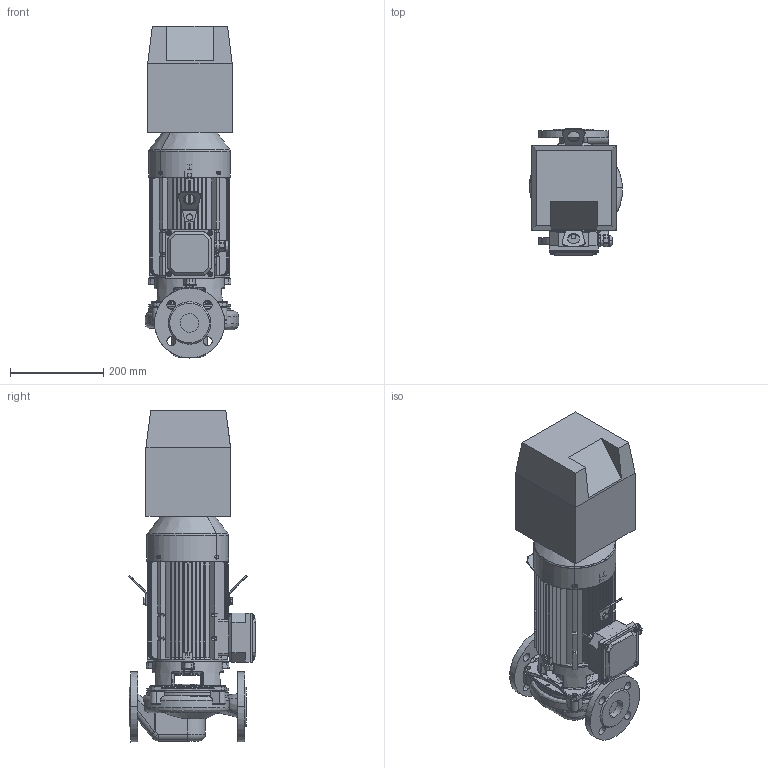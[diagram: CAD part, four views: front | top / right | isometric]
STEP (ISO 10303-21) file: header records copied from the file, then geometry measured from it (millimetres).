
FILE_DESCRIPTION(('STEP AP214'),'1');
FILE_NAME('export.stp','2018-08-09T05:24:07',(' '),(' '),'Spatial InterOp 3D',' ',' ');
FILE_SCHEMA(('AUTOMOTIVE_DESIGN { 1 0 10303 214 1 1 1 1 }'));
Length unit declared in the file: millimetre
Products named in the file (24): W_L40A2NC150KP; V_TLAEAP3233L40A; V_PPL40A; 160035; 160008; V_MKP90-1_N13; 160141; 160137; 160138; 160139; 160140; Koura_Ale_M5; Plug_Blind_M20; Sealing_Plug_M20; DIN_7985-M5X8; DIN_7985-M5X12; 480037; 480036___; 480039; 480038___; 160135; 160134; DIN_EN_24017_-_M8_16-Stainless_S; NC_Size1
Assembly tree (28 placements, depth 4):
  W_L40A2NC150KP
    V_TLAEAP3233L40A
    V_PPL40A
    V_MKP90-1_N13
      160035
        160008
      160141
        160137
        160138
        160139
        160140
        Koura_Ale_M5
        Plug_Blind_M20
        Sealing_Plug_M20
        DIN_7985-M5X8
        DIN_7985-M5X12  x4
      480037
        480036___
      480039
        480038___
      160135
      160134  x2
      DIN_EN_24017_-_M8_16-Stainless_S  x2
    NC_Size1
Bounding box: 199.53 x 272.62 x 711.01 mm (x, y, z)
Volume: 10821173.7 mm3; surface area: 1374158.5 mm2
Topology: 23 solids, 23 shells, 2683 faces, 7101 edges, 4459 vertices
Faces by surface type: plane 1085, cylinder 781, torus 313, bspline 308, cone 172, sphere 24
Entity records: 102051 total; most frequent: CARTESIAN_POINT 36822, ORIENTED_EDGE 13542, DIRECTION 12313, EDGE_CURVE 6771, AXIS2_PLACEMENT_3D 4696, VERTEX_POINT 4281, LINE 2921, VECTOR 2921
